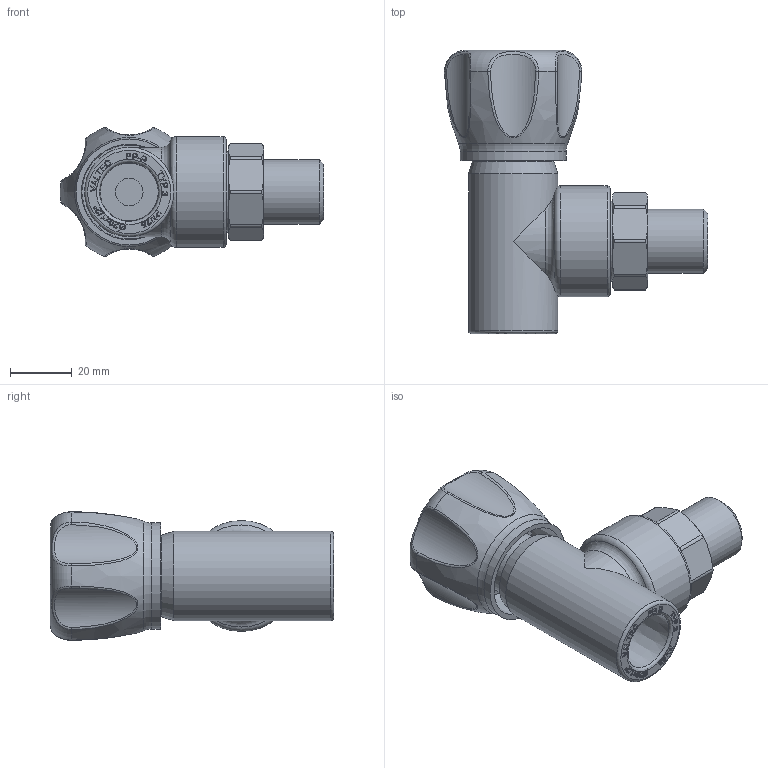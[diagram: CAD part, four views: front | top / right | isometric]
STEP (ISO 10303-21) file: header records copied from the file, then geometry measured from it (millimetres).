
FILE_DESCRIPTION(/* description */ (''),/* implementation_level */ '2;1');
FILE_NAME(/* name */ 'E:\Артём\00000\Работа удаленка\VTp.718.V.02004.stp',/* time_stamp */ '2020-03-31T13:13:38+03:00',/* author */ ('BeN_GaN'),/* organization */ (''),/* preprocessor_version */ 'ST-DEVELOPER v18',/* originating_system */ 'Autodesk Inventor 2020',/* authorisation */ '');
FILE_SCHEMA (('AUTOMOTIVE_DESIGN { 1 0 10303 214 3 1 1 }'));
Length unit declared in the file: millimetre
Products named in the file (1): VTp.718.V.02004
Bounding box: 85.55 x 92.22 x 41.76 mm (x, y, z)
Volume: 88726.6 mm3; surface area: 28956.6 mm2
Topology: 1 solids, 5 shells, 662 faces, 1773 edges, 1190 vertices
Faces by surface type: plane 413, bspline 153, cylinder 50, cone 30, torus 16
Full cylindrical faces by diameter (mm): 4.3 x1, 6 x1, 8.8 x1, 9 x2, 11 x1, 12 x1, 12.781 x1, 14 x2, 14.1 x2, 15.5 x1, 17 x4, 18 x1, 18.8 x1, 19 x1, 20.9 x1, 21 x1, 24.111 x1, 26 x1, 26.261 x1, 29 x1, 34.444 x1, 36 x1
Entity records: 22722 total; most frequent: CARTESIAN_POINT 7030, ORIENTED_EDGE 3546, DIRECTION 2681, EDGE_CURVE 1773, VERTEX_POINT 1190, LINE 1135, VECTOR 1135, AXIS2_PLACEMENT_3D 773
